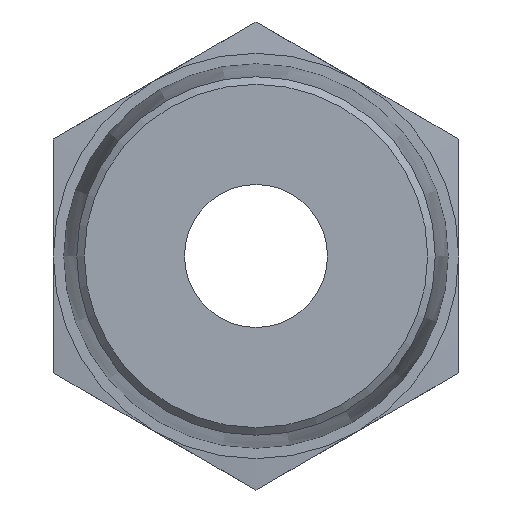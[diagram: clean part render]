
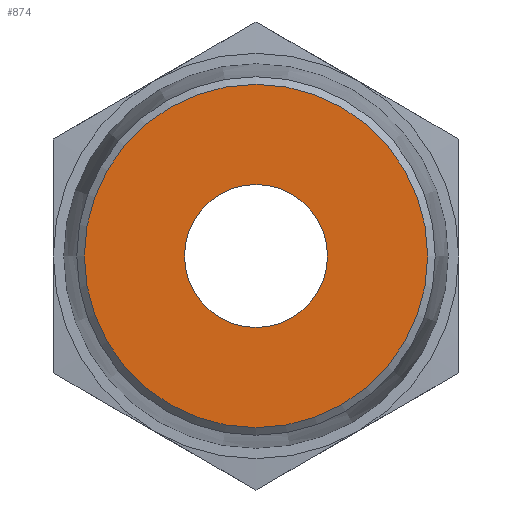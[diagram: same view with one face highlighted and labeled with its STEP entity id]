
A CAD part, front view. The second image highlights one B-rep face of the part: STEP entity #874.
In plain terms, the highlighted planar face has unit normal (0, -1, 0).
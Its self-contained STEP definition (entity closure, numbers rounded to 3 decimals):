
#33=FACE_BOUND('',#161,.T.);
#103=FACE_OUTER_BOUND('',#160,.T.);
#160=EDGE_LOOP('',(#680));
#161=EDGE_LOOP('',(#681));
#206=CIRCLE('',#958,3.);
#218=CIRCLE('',#976,7.2);
#402=VERTEX_POINT('',#1434);
#413=VERTEX_POINT('',#1466);
#499=EDGE_CURVE('',#402,#402,#206,.T.);
#515=EDGE_CURVE('',#413,#413,#218,.T.);
#680=ORIENTED_EDGE('',*,*,#515,.F.);
#681=ORIENTED_EDGE('',*,*,#499,.T.);
#837=PLANE('',#977);
#874=ADVANCED_FACE('',(#103,#33),#837,.T.);
#958=AXIS2_PLACEMENT_3D('',#1435,#1136,#1137);
#976=AXIS2_PLACEMENT_3D('',#1468,#1176,#1177);
#977=AXIS2_PLACEMENT_3D('',#1469,#1178,#1179);
#1136=DIRECTION('center_axis',(0.,1.,0.));
#1137=DIRECTION('ref_axis',(1.,0.,0.));
#1176=DIRECTION('center_axis',(0.,1.,0.));
#1177=DIRECTION('ref_axis',(-1.,0.,0.));
#1178=DIRECTION('center_axis',(0.,-1.,0.));
#1179=DIRECTION('ref_axis',(0.,0.,-1.));
#1434=CARTESIAN_POINT('',(-3.,-9.5,0.));
#1435=CARTESIAN_POINT('Origin',(0.,-9.5,0.));
#1466=CARTESIAN_POINT('',(7.2,-9.5,0.));
#1468=CARTESIAN_POINT('Origin',(0.,-9.5,0.));
#1469=CARTESIAN_POINT('Origin',(7.5,-9.5,0.));
